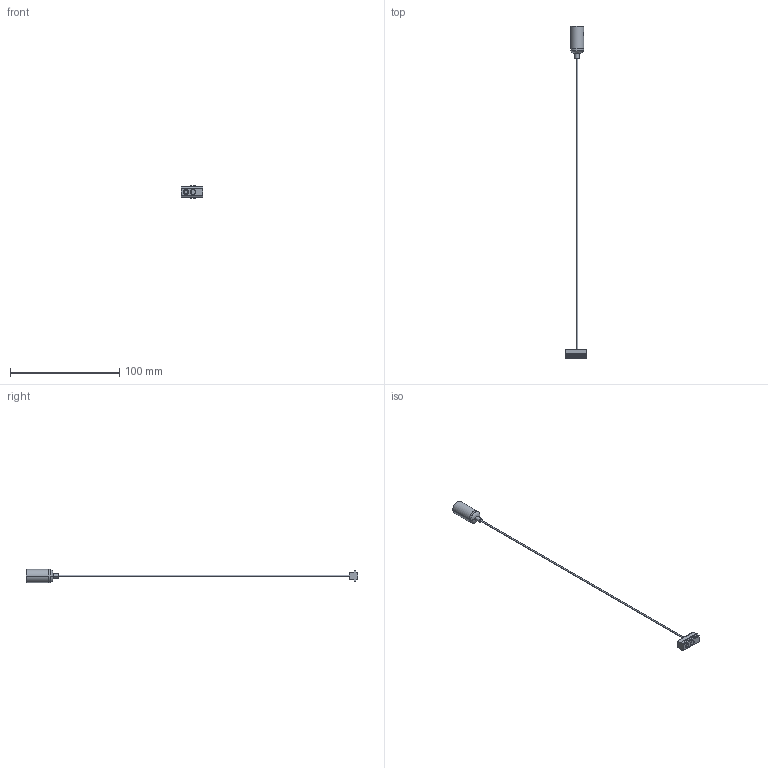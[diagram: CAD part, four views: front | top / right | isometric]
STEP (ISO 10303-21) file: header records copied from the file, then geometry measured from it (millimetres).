
FILE_DESCRIPTION((''),'2;1');
FILE_NAME('KC-0006-125_ASM','2025-08-01T16:12:06',('YF-06'),(''),'CREO PARAMETRIC BY PTC INC, 2022073','CREO PARAMETRIC BY PTC INC, 2022073','');
FILE_SCHEMA(('CONFIG_CONTROL_DESIGN','SHAPE_APPEARANCE_LAYERS_GROUPS'));
Length unit declared in the file: millimetre
Products named in the file (6): KC-0006-0082; KC-0006-124-002; KC-0006-124-003; KC-0006-124-004; M4_8; KC-0006-125_ASM
Assembly tree (5 placements, depth 2):
  KC-0006-125_ASM
    KC-0006-0082
    KC-0006-124-002
    KC-0006-124-003
    KC-0006-124-004
    M4_8
Bounding box: 20 x 304.2 x 12 mm (x, y, z)
Volume: 3625 mm3; surface area: 4909.4 mm2
Topology: 5 solids, 5 shells, 163 faces, 414 edges, 264 vertices
Faces by surface type: cylinder 87, plane 35, bspline 24, cone 17
Entity records: 9655 total; most frequent: CARTESIAN_POINT 5505, ORIENTED_EDGE 828, DIRECTION 627, EDGE_CURVE 414, VERTEX_POINT 264, AXIS2_PLACEMENT_3D 225, VECTOR 177, LINE 177
